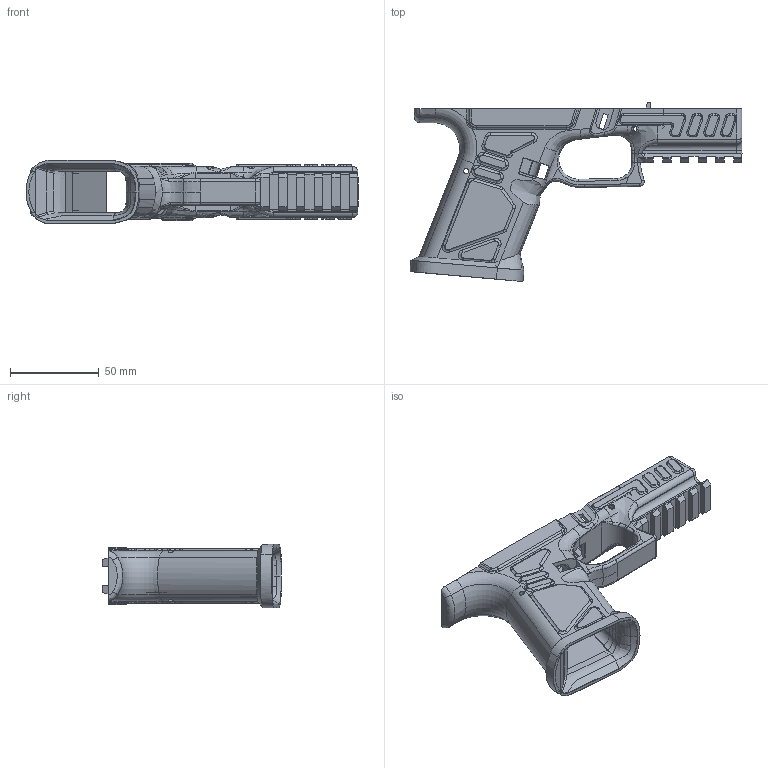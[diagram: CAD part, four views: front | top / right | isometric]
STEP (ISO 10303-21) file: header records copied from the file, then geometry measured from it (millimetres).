
FILE_DESCRIPTION(/* description */ ('','CAx-IF Rec.Pracs.---Representation and Presentation of Product Manufacturing Information (PMI)---4.0---2014-10-13'),/* implementation_level */ '2;1');
FILE_NAME(/* name */ '120G Compact - Unseenkiller Remix v1.step',/* time_stamp */ '2025-01-11T18:29:11-06:00',/* author */ (''),/* organization */ (''),/* preprocessor_version */ 'ST-DEVELOPER v20',/* originating_system */ 'Autodesk Translation Framework v13.20.0.188',/* authorisation */ '');
FILE_SCHEMA (('AP242_MANAGED_MODEL_BASED_3D_ENGINEERING_MIM_LF { 1 0 10303 442 1 1 4 }'));
Length unit declared in the file: millimetre
Products named in the file (3): Unseenkiller G100 v1; Unseenkiller G100 v2; Component12
Assembly tree (2 placements, depth 2):
  Unseenkiller G100 v1
    Unseenkiller G100 v2
    Component12
Bounding box: 187.31 x 100.97 x 35.8 mm (x, y, z)
Volume: 185377.9 mm3; surface area: 91528.3 mm2
Topology: 2 solids, 2 shells, 1319 faces, 3741 edges, 2412 vertices
Faces by surface type: plane 415, bspline 379, cylinder 369, torus 135, cone 13, sphere 8
Full cylindrical faces by diameter (mm): 1.321 x1, 2 x1, 2.997 x2, 3 x4
Entity records: 94645 total; most frequent: CARTESIAN_POINT 62133, ORIENTED_EDGE 7448, DIRECTION 6044, EDGE_CURVE 3724, VERTEX_POINT 2412, AXIS2_PLACEMENT_3D 2216, LINE 1612, VECTOR 1612
